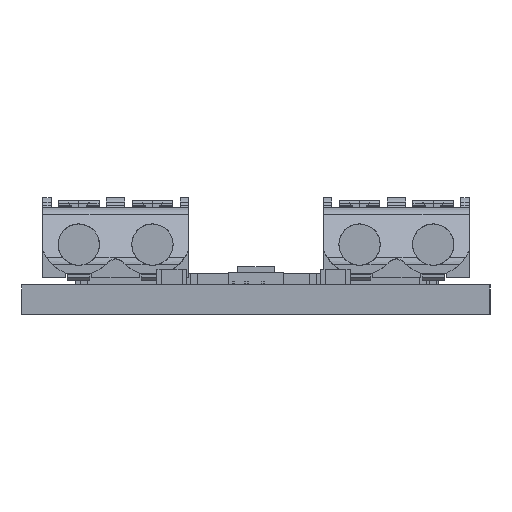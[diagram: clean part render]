
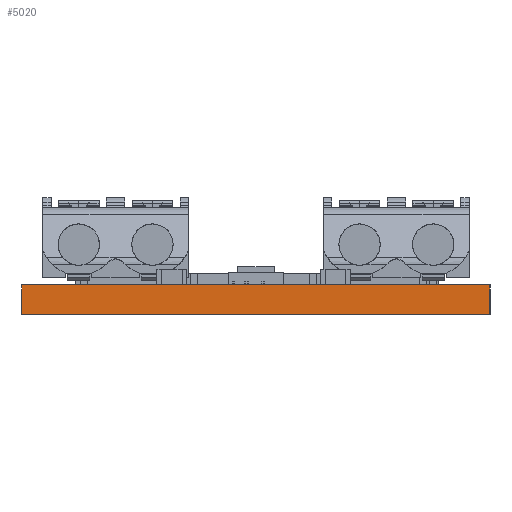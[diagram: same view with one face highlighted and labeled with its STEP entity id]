
A CAD part, left-side view. The second image highlights one B-rep face of the part: STEP entity #5020.
In plain terms, the highlighted planar face has unit normal (-1, 0, 0).
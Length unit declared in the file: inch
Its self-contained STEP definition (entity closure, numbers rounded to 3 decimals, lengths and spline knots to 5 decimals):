
#1297=DIRECTION('',(0.,-1.,0.));
#1298=VECTOR('',#1297,25.4);
#1299=CARTESIAN_POINT('',(-285.75,12.7,0.));
#1300=LINE('',#1299,#1298);
#1304=DIRECTION('',(0.,0.,1.));
#1305=VECTOR('',#1304,1.6);
#1306=CARTESIAN_POINT('',(-285.75,-12.7,0.));
#1307=LINE('',#1306,#1305);
#1311=DIRECTION('',(0.,0.,1.));
#1312=VECTOR('',#1311,1.6);
#1313=CARTESIAN_POINT('',(-285.75,12.7,0.));
#1314=LINE('',#1313,#1312);
#2599=DIRECTION('',(0.,-1.,0.));
#2600=VECTOR('',#2599,25.4);
#2601=CARTESIAN_POINT('',(-285.75,12.7,1.6));
#2602=LINE('',#2601,#2600);
#3880=CARTESIAN_POINT('',(-285.75,-12.7,0.));
#3882=VERTEX_POINT('',#3880);
#4246=CARTESIAN_POINT('',(-285.75,12.7,0.));
#4247=VERTEX_POINT('',#4246);
#4248=CARTESIAN_POINT('',(-285.75,-12.7,1.6));
#4250=VERTEX_POINT('',#4248);
#4614=CARTESIAN_POINT('',(-285.75,12.7,1.6));
#4615=VERTEX_POINT('',#4614);
#5007=CARTESIAN_POINT('',(-285.75,12.7,0.));
#5008=DIRECTION('',(-1.,0.,0.));
#5009=DIRECTION('',(0.,-1.,0.));
#5010=AXIS2_PLACEMENT_3D('',#5007,#5008,#5009);
#5011=PLANE('',#5010);
#5012=ORIENTED_EDGE('',*,*,#4987,.F.);
#5014=ORIENTED_EDGE('',*,*,#5013,.T.);
#5016=ORIENTED_EDGE('',*,*,#5015,.T.);
#5017=ORIENTED_EDGE('',*,*,#4998,.F.);
#5018=EDGE_LOOP('',(#5012,#5014,#5016,#5017));
#5019=FACE_OUTER_BOUND('',#5018,.F.);
#4987=EDGE_CURVE('',#4247,#3882,#1300,.T.);
#4998=EDGE_CURVE('',#3882,#4250,#1307,.T.);
#5013=EDGE_CURVE('',#4247,#4615,#1314,.T.);
#5015=EDGE_CURVE('',#4615,#4250,#2602,.T.);
#5020=ADVANCED_FACE('',(#5019),#5011,.T.);
